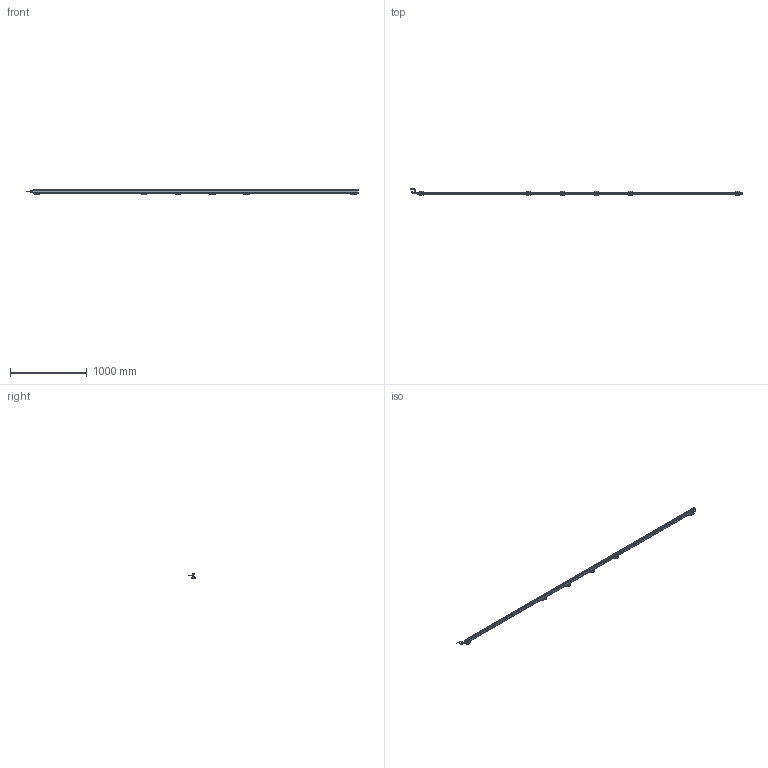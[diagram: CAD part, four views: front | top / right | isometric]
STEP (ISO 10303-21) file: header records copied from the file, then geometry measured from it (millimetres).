
FILE_DESCRIPTION(('Bauteilbeschreibung','HiCAD-Model','HiCAD-STEP-TRANSLATION','Bauteilbeschreibung'),'2;1');
FILE_NAME('PERFORMAXIQEASY_4170-4260_3D.STP','2014-03-05T13:35:39+00:00',('Konstrukteur'),('Konstrukteur Firma GmbH'),' HiCAD 2011, Step 1600.0 ','HiCAD 2011','confidential');
FILE_SCHEMA(('AUTOMOTIVE_DESIGN { 1 2 10303 214 0 1 1 1 }'));
Products named in the file (56): PERFORMAXIQEASY_4170_4260_3D; A_PERFORMAX IQ EASY 4170_4260; A_PERFORMAX IQ EASY SPEED; A_CAP DE; A_CAP CE_5; LED_2C_3MM; LED02C03MM; A519020315_CONNECTOR APPLIANCE; A_INSERT; A_CONTACTS; A_HOUSING; A_PROFILE; A_POTTING; PIN; PIN0; A532000100_BRACKET BARS_ MOUNT; A_SIDE PIECE; A0SIDE0PIECE; A_BRACKET SMALL; A_SLIDE PIECE; A5320001000BRACKET0BARS00MOUNT; A0SIDE0PIECE0; A0SIDE0PIECE1; A0BRACKET0SMALL; A0SLIDE0PIECE; A5320001000BRACKET0BARS00MOUNT0; A0SIDE0PIECE2; A0SIDE0PIECE3; A0BRACKET0SMALL0; A0SLIDE0PIECE0; A0SIDE0PIECE4; A0SIDE0PIECE5; A0BRACKET0SMALL1; A0SLIDE0PIECE1; A0SIDE0PIECE6; A0SIDE0PIECE7; A0BRACKET0SMALL2; A0SLIDE0PIECE2; A0SIDE0PIECE8; A0SIDE0PIECE9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
Assembly tree (55 placements, depth 5):
  PERFORMAXIQEASY_4170_4260_3D
    A_PERFORMAX IQ EASY 4170_4260
      A_PERFORMAX IQ EASY SPEED
        A_CAP DE
        A_CAP CE_5
        LED_2C_3MM
        LED02C03MM
        A519020315_CONNECTOR APPLIANCE
          A_INSERT
          A_CONTACTS
          A_HOUSING
        A_PROFILE
        A_POTTING
        PIN
        PIN0
      A532000100_BRACKET BARS_ MOUNT
        A_SIDE PIECE
        A0SIDE0PIECE
        A_BRACKET SMALL
        A_SLIDE PIECE
      A5320001000BRACKET0BARS00MOUNT
        A0SIDE0PIECE0
        A0SIDE0PIECE1
        A0BRACKET0SMALL
        A0SLIDE0PIECE
      A5320001000BRACKET0BARS00MOUNT0
        A0SIDE0PIECE2
        A0SIDE0PIECE3
        A0BRACKET0SMALL0
        A0SLIDE0PIECE0
      A5320001000BRACKET0BARS00MOUNT0
        A0SIDE0PIECE4
        A0SIDE0PIECE5
        A0BRACKET0SMALL1
        A0SLIDE0PIECE1
      A5320001000BRACKET0BARS00MOUNT0
        A0SIDE0PIECE6
        A0SIDE0PIECE7
        A0BRACKET0SMALL2
        A0SLIDE0PIECE2
      A5320001000BRACKET0BARS00MOUNT0
        A0SIDE0PIECE8
        A0SIDE0PIECE9
        A0BRACKET0SMALL3
        A0SLIDE0PIECE3
      A_CONNECTOR STRAIGHT
        EXTRUDED SOLID_0
        DRAAD GEBOGEN
        REVOLVED SOLID_1
        REVOLVED SOLID_3
      A_CONNECTOR ANGLED
        REVOLVED0SOLID01
        EXTRUDED0SOLID00
        C_EDGE SWEEP_0
        REVOLVED SOLID_2
        REVOLVED0SOLID03
Bounding box: 4337.89 x 84.16 x 63.13 mm (x, y, z)
Volume: 4378670.8 mm3; surface area: 1053182 mm2
Topology: 49 solids, 49 shells, 4983 faces, 12800 edges, 7585 vertices
Faces by surface type: cylinder 2137, plane 1879, sphere 332, torus 299, bspline 248, cone 88
Full cylindrical faces by diameter (mm): 0.8 x10, 1 x5, 2.387 x12, 3 x27, 3.1 x1, 4.2 x2, 5 x4, 5.5 x30, 8 x2, 8.2 x1, 8.4 x2, 8.945 x1, 9 x2, 10.2 x1, 10.5 x3, 11 x1, 12 x3, 12.8 x1, 13.8 x4, 14.5 x3
Entity records: 231105 total; most frequent: CARTESIAN_POINT 54548, DIRECTION 24777, ORIENTED_EDGE 24320, EDGE_CURVE 12160, COLOUR_RGB 11541, PRESENTATION_STYLE_ASSIGNMENT 11541, OVER_RIDING_STYLED_ITEM 11497, CURVE_STYLE 11492
